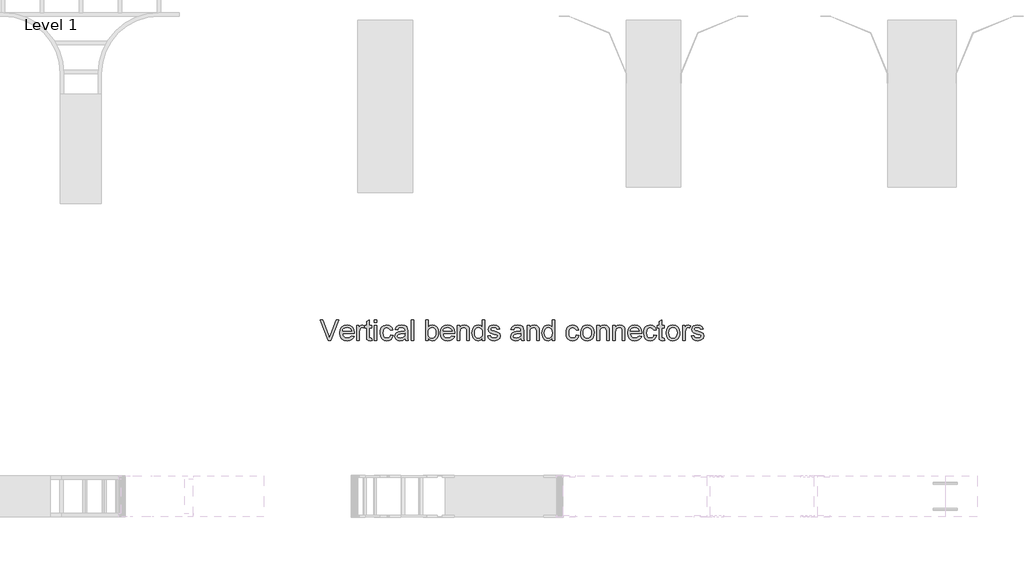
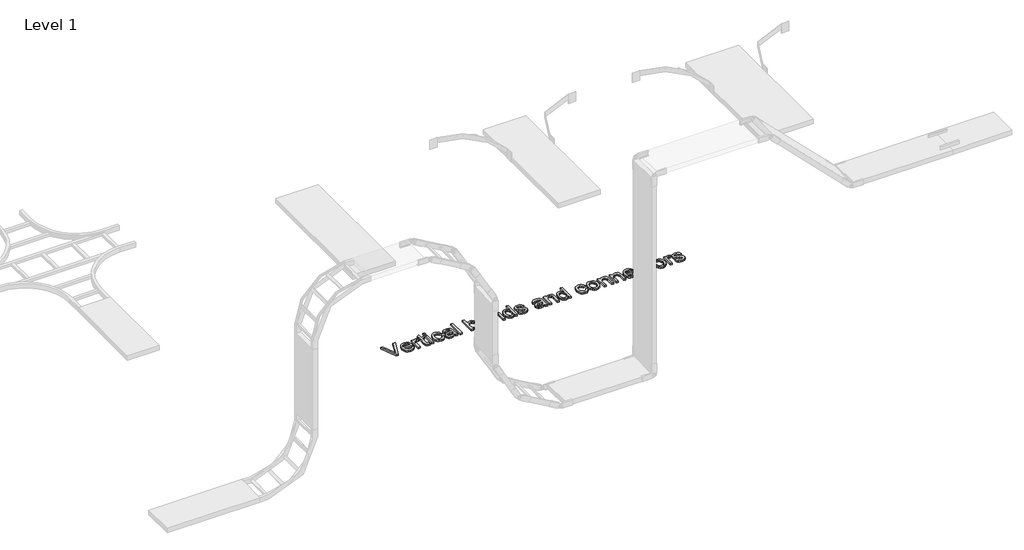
# One storey, part 65 of 106: 1 proxy.
"""IFC4 building model written with IfcOpenShell, lengths in millimetres."""

from ifc_helpers import new_model, si_unit, origin, origin_with_axes, place, context, project, spatial, polyline, outline, extrude, element, save

model = new_model("IFC4")

# Units and contexts
model_context = context("Model", 3, world=origin())
ifc_project = project(units=[si_unit("LENGTHUNIT", "METRE", prefix="MILLI")], contexts=[model_context])

# Site, building, storey
site = spatial("IfcSite", under=ifc_project)
building = spatial("IfcBuilding", under=site)
storey = spatial("IfcBuildingStorey", under=building, Name="Level 1", Elevation=0.0)

# Proxy
placement = place(None, origin())
element("IfcBuildingElementProxy", 1, Name="150mm Arial 2", ObjectType="150mm Arial 2", at=placement, inside=storey, context=model_context, shape_type="SweptSolid", body=[
    extrude(outline(polyline([(41572.9663468, 57347.8476348), (41513.0015816, 57498.5321), (41533.1615149, 57498.5321), (41573.2974406, 57389.9701232), (41581.4276327, 57365.5059705), (41589.4474602, 57389.9701232), (41629.6937505, 57498.5321), (41649.8536838, 57498.5321), (41592.4273044, 57347.8476348), (41572.9663468, 57347.8476348)])), origin_with_axes(), (0.0, 0.0, 1.0), 15.0),
    extrude(outline(polyline([(41742.4863702, 57380.8098615), (41760.9540463, 57378.4554168), (41754.2999808, 57364.5402803), (41743.6819867, 57354.1384169), (41729.3391874, 57347.6544967), (41711.5107062, 57345.49319), (41689.4101953, 57349.2225937), (41672.4048501, 57360.4108049), (41661.5615283, 57378.3312566), (41657.9470877, 57402.2573819), (41661.5983165, 57426.988249), (41672.5520029, 57445.4835163), (41689.3274219, 57457.0166168), (41710.4438484, 57460.8609837), (41730.9026859, 57457.0258139), (41747.250442, 57445.5203045), (41757.9696037, 57427.0618254), (41761.5426575, 57402.3677465), (41761.4322929, 57397.2909749), (41676.7826459, 57397.2909749), (41680.043, 57383.1918975), (41687.6167706, 57372.8268223), (41698.5474644, 57366.4532667), (41711.8785882, 57364.3287482), (41730.3462644, 57368.2650855), (41742.4863702, 57380.8098615)]), holes=[polyline([(41676.7826459, 57416.1265331), (41742.7070994, 57416.1265331), (41740.1595166, 57426.0777411), (41735.1655185, 57433.1962577), (41724.1842409, 57439.8181336), (41710.370272, 57442.0254255), (41697.6737447, 57440.2641905), (41687.1753122, 57434.9804853), (41679.8774531, 57426.7445272), (41676.7826459, 57416.1265331)])]), origin_with_axes(), (0.0, 0.0, 1.0), 15.0),
    extrude(outline(polyline([(41891.0371198, 57363.556196), (41893.3915646, 57347.2958118), (41879.3016842, 57345.49319), (41863.5195466, 57348.620187), (41855.6468719, 57356.8239555), (41853.3660035, 57378.1978994), (41853.3660035, 57439.6709808), (41839.2393349, 57439.6709808), (41839.2393349, 57455.0484482), (41839.2393349, 57458.5065389), (41853.3660035, 57458.5065389), (41853.3660035, 57485.3987128), (41872.2015617, 57496.4719608), (41872.2015617, 57458.5065389), (41891.0371198, 57458.5065389), (41891.0371198, 57439.6709808), (41872.2015617, 57439.6709808), (41872.2015617, 57378.7497224), (41873.1948431, 57369.0376377), (41876.4138105, 57365.597941), (41882.8333514, 57364.3287482), (41891.0371198, 57363.556196)])), origin_with_axes(), (0.0, 0.0, 1.0), 15.0),
    extrude(outline(polyline([(41780.3782157, 57347.8476348), (41780.3782157, 57458.5065389), (41796.8593291, 57458.5065389), (41796.8593291, 57442.1357901), (41808.5579765, 57457.2189519), (41820.3302004, 57460.8609837), (41839.2393349, 57455.0484482), (41832.9485528, 57438.1626646), (41819.704801, 57442.0254255), (41809.0546172, 57438.3098174), (41802.2671944, 57428.0091215), (41799.2137738, 57406.0097782), (41799.2137738, 57347.8476348), (41780.3782157, 57347.8476348)])), origin_with_axes(), (0.0, 0.0, 1.0), 15.0),
    extrude(outline(polyline([(41909.872678, 57479.6965419), (41909.872678, 57498.5321), (41928.7082362, 57498.5321), (41928.7082362, 57479.6965419), (41909.872678, 57479.6965419)])), origin_with_axes(), (0.0, 0.0, 1.0), 15.0),
    extrude(outline(polyline([(41909.872678, 57347.8476348), (41909.872678, 57458.5065389), (41928.7082362, 57458.5065389), (41928.7082362, 57347.8476348), (41909.872678, 57347.8476348)])), origin_with_axes(), (0.0, 0.0, 1.0), 15.0),
    extrude(outline(polyline([(42027.5949165, 57387.8731959), (42046.4304746, 57385.5187511), (42041.1789591, 57368.7663247), (42031.3105246, 57356.1065856), (42017.7540731, 57348.1465389), (42001.4385066, 57345.49319), (41981.4027334, 57349.1950026), (41965.735559, 57360.3004403), (41955.6234026, 57378.3220596), (41952.2526838, 57402.7724167), (41953.6920221, 57419.5340401), (41958.0100371, 57434.0607803), (41965.2757065, 57445.7916175), (41975.5580082, 57454.1655314), (41987.8590624, 57459.1871206), (42001.1809892, 57460.8609837), (42017.096484, 57458.5617212), (42029.8206025, 57451.6639338), (42038.9486745, 57440.5355035), (42044.0760298, 57425.5443122), (42025.2404717, 57423.1898674), (42016.5032743, 57437.2981419), (42001.328142, 57442.0254255), (41989.1558465, 57439.6985719), (41979.4943456, 57432.7180111), (41973.1897679, 57420.7066639), (41971.088242, 57403.2874515), (41973.1437826, 57385.6337142), (41979.3104046, 57373.5809803), (41988.7971615, 57366.6418062), (42000.8131072, 57364.3287482), (42010.5665786, 57365.772685), (42018.5634135, 57370.1044955), (42024.3805475, 57377.4345442), (42027.5949165, 57387.8731959)])), origin_with_axes(), (0.0, 0.0, 1.0), 15.0),
    extrude(outline(polyline([(42133.5449311, 57361.9743034), (42115.27959, 57349.2087982), (42095.1012626, 57345.49319), (42079.3605117, 57347.7280731), (42067.7492362, 57354.4327225), (42060.5893329, 57364.6138567), (42058.2026985, 57377.2781944), (42061.807942, 57392.1774152), (42071.2809034, 57402.9931459), (42084.4694729, 57409.1735634), (42100.7666453, 57412.0062547), (42133.4345665, 57418.4809779), (42133.5449311, 57422.6748326), (42132.248147, 57431.0809362), (42128.3577949, 57436.580772), (42119.6573857, 57440.6642622), (42107.535674, 57442.0254255), (42088.4793867, 57438.4017879), (42079.3927014, 57425.5443122), (42060.5571432, 57427.8987569), (42068.7057294, 57446.2928567), (42085.1132664, 57457.0717991), (42109.9636952, 57460.8609837), (42132.790773, 57457.5132575), (42145.6850369, 57449.107154), (42151.4607842, 57436.3232546), (42152.3804892, 57419.8421412), (42152.3804892, 57396.4080581), (42153.3369824, 57363.6849547), (42157.0893788, 57347.8476348), (42138.2538206, 57347.8476348), (42133.5449311, 57361.9743034)]), holes=[polyline([(42133.5449311, 57399.6454197), (42103.1578783, 57393.8696724), (42086.9526764, 57390.8162518), (42079.6134306, 57385.8498449), (42077.0382566, 57378.6025696), (42082.648457, 57368.4122383), (42099.1111763, 57364.3287482), (42118.1674637, 57368.8353026), (42130.4547223, 57379.7430038), (42133.4345665, 57394.3111308), (42133.5449311, 57399.6454197)])]), origin_with_axes(), (0.0, 0.0, 1.0), 15.0),
    extrude(outline(polyline([(42178.2793817, 57347.8476348), (42178.2793817, 57498.5321), (42197.1149398, 57498.5321), (42197.1149398, 57347.8476348), (42178.2793817, 57347.8476348)])), origin_with_axes(), (0.0, 0.0, 1.0), 15.0),
    extrude(outline(polyline([(42303.0649544, 57347.8476348), (42284.2293963, 57347.8476348), (42284.2293963, 57498.5321), (42303.0649544, 57498.5321), (42303.0649544, 57442.6508249), (42316.253524, 57456.308444), (42332.6426669, 57460.8609837), (42351.5150132, 57456.7590995), (42366.1567166, 57445.2259989), (42375.1514314, 57427.2917516), (42378.4071871, 57404.8325558), (42375.0364683, 57379.6878215), (42364.9243119, 57360.981022), (42350.084872, 57349.365148), (42332.5323023, 57345.49319), (42315.7844744, 57350.4871881), (42303.0649544, 57365.4691823), (42303.0649544, 57347.8476348)]), holes=[polyline([(42303.0649544, 57403.949639), (42304.3525414, 57388.2410779), (42308.2153024, 57377.6092882), (42318.0837369, 57367.6488832), (42330.9136215, 57364.3287482), (42341.7845344, 57366.7751634), (42351.0735548, 57374.1144092), (42357.4471104, 57386.3005003), (42359.5716289, 57403.2874515), (42357.5344824, 57420.5227229), (42351.4230427, 57432.5708583), (42342.4237294, 57439.6617837), (42331.7229619, 57442.0254255), (42320.8520489, 57439.5790103), (42311.5630285, 57432.2397645), (42305.189473, 57420.2744026), (42303.0649544, 57403.949639)])]), origin_with_axes(), (0.0, 0.0, 1.0), 15.0),
    extrude(outline(polyline([(42477.0731382, 57380.8098615), (42495.5408143, 57378.4554168), (42488.8867487, 57364.5402803), (42478.2687546, 57354.1384169), (42463.9259554, 57347.6544967), (42446.0974742, 57345.49319), (42423.9969633, 57349.2225937), (42406.9916181, 57360.4108049), (42396.1482963, 57378.3312566), (42392.5338557, 57402.2573819), (42396.1850845, 57426.988249), (42407.1387709, 57445.4835163), (42423.9141899, 57457.0166168), (42445.0306164, 57460.8609837), (42465.4894538, 57457.0258139), (42481.83721, 57445.5203045), (42492.5563716, 57427.0618254), (42496.1294255, 57402.3677465), (42496.0190609, 57397.2909749), (42411.3694138, 57397.2909749), (42414.629768, 57383.1918975), (42422.2035386, 57372.8268223), (42433.1342324, 57366.4532667), (42446.4653562, 57364.3287482), (42464.9330323, 57368.2650855), (42477.0731382, 57380.8098615)]), holes=[polyline([(42411.3694138, 57416.1265331), (42477.2938674, 57416.1265331), (42474.7462845, 57426.0777411), (42469.7522865, 57433.1962577), (42458.7710089, 57439.8181336), (42444.95704, 57442.0254255), (42432.2605126, 57440.2641905), (42421.7620802, 57434.9804853), (42414.4642211, 57426.7445272), (42411.3694138, 57416.1265331)])]), origin_with_axes(), (0.0, 0.0, 1.0), 15.0),
    extrude(outline(polyline([(42514.9649837, 57347.8476348), (42514.9649837, 57458.5065389), (42533.8005418, 57458.5065389), (42533.8005418, 57443.0554951), (42548.2031219, 57456.4096116), (42567.8664146, 57460.8609837), (42585.653509, 57457.2741342), (42597.7936149, 57447.8563552), (42603.4406035, 57434.0055981), (42604.4338849, 57415.7954393), (42604.4338849, 57347.8476348), (42585.5983267, 57347.8476348), (42585.5983267, 57413.2570535), (42583.427823, 57429.9221079), (42575.7574834, 57438.7328817), (42562.8264312, 57442.0254255), (42551.7945699, 57440.1768185), (42542.3905864, 57434.6309974), (42535.948053, 57423.9164343), (42533.8005418, 57406.5616012), (42533.8005418, 57347.8476348), (42514.9649837, 57347.8476348)])), origin_with_axes(), (0.0, 0.0, 1.0), 15.0),
    extrude(outline(polyline([(42698.6116757, 57347.8476348), (42698.6116757, 57365.6163351), (42686.1496731, 57350.5239763), (42668.9235986, 57345.49319), (42656.7467046, 57347.3142059), (42645.5998802, 57352.7772535), (42636.163707, 57361.5006553), (42629.1187668, 57373.1027337), (42624.731774, 57387.1144392), (42623.269443, 57403.0667223), (42628.6589143, 57433.0491049), (42635.3911548, 57444.9408904), (42644.8089339, 57453.6872848), (42656.1994801, 57459.067559), (42668.8500222, 57460.8609837), (42686.2140524, 57455.7290299), (42698.6116757, 57442.3933075), (42698.6116757, 57498.5321), (42717.4472338, 57498.5321), (42717.4472338, 57347.8476348), (42698.6116757, 57347.8476348)]), holes=[polyline([(42642.1050012, 57403.1402987), (42644.2295197, 57386.1027638), (42650.6030753, 57373.9856505), (42659.8645045, 57366.7429738), (42670.652644, 57364.3287482), (42681.436185, 57366.6326092), (42690.4630895, 57373.5441921), (42696.5745291, 57385.1922558), (42698.6116757, 57401.7055589), (42696.5377409, 57419.7593678), (42690.3159367, 57432.2765527), (42681.059106, 57439.5882073), (42669.8800918, 57442.0254255), (42658.9815877, 57439.6847764), (42650.0512523, 57432.6628288), (42644.091564, 57420.6008979), (42642.1050012, 57403.1402987)])]), origin_with_axes(), (0.0, 0.0, 1.0), 15.0),
    extrude(outline(polyline([(42738.6372367, 57380.8098615), (42757.4727949, 57383.1643063), (42760.443442, 57375.1076906), (42766.1915982, 57369.1847905), (42786.1675905, 57364.3287482), (42805.3710307, 57368.7801203), (42811.6250246, 57379.227969), (42810.052329, 57384.028829), (42805.3342425, 57387.6892549), (42785.9468613, 57393.060332), (42757.5831595, 57402.275776), (42745.2039303, 57413.0363243), (42740.9916815, 57428.2298507), (42744.3761959, 57442.2645488), (42753.6100339, 57452.988309), (42765.5845929, 57458.5617212), (42781.7897948, 57460.8609837), (42804.7088431, 57457.1637696), (42819.2769701, 57447.1573794), (42825.7516932, 57430.2532017), (42806.916135, 57427.8987569), (42799.8344066, 57438.2914233), (42783.2613227, 57442.0254255), (42765.235105, 57438.4569702), (42759.8272397, 57430.1428371), (42762.0713198, 57424.6613954), (42769.0978659, 57420.5043288), (42785.3214619, 57416.4944151), (42812.9677939, 57407.628459), (42825.8068755, 57397.5852805), (42830.4605827, 57381.2145317), (42824.9975351, 57363.188314), (42809.2337916, 57350.1101091), (42785.9100731, 57345.49319), (42766.9181651, 57347.7188761), (42753.0582109, 57354.3959343), (42743.8059788, 57365.4507882), (42738.6372367, 57380.8098615)])), origin_with_axes(), (0.0, 0.0, 1.0), 15.0),
    extrude(outline(polyline([(42981.145048, 57361.9743034), (42962.8797069, 57349.2087982), (42942.7013795, 57345.49319), (42926.9606286, 57347.7280731), (42915.3493531, 57354.4327225), (42908.1894498, 57364.6138567), (42905.8028153, 57377.2781944), (42909.4080589, 57392.1774152), (42918.8810203, 57402.9931459), (42932.0695898, 57409.1735634), (42948.3667622, 57412.0062547), (42981.0346834, 57418.4809779), (42981.145048, 57422.6748326), (42979.8482639, 57431.0809362), (42975.9579118, 57436.580772), (42967.2575026, 57440.6642622), (42955.1357909, 57442.0254255), (42936.0795035, 57438.4017879), (42926.9928183, 57425.5443122), (42908.1572601, 57427.8987569), (42916.3058463, 57446.2928567), (42932.7133833, 57457.0717991), (42957.5638121, 57460.8609837), (42980.3908899, 57457.5132575), (42993.2851538, 57449.107154), (42999.0609011, 57436.3232546), (42999.9806061, 57419.8421412), (42999.9806061, 57396.4080581), (43000.9370993, 57363.6849547), (43004.6894956, 57347.8476348), (42985.8539375, 57347.8476348), (42981.145048, 57361.9743034)]), holes=[polyline([(42981.145048, 57399.6454197), (42950.7579952, 57393.8696724), (42934.5527933, 57390.8162518), (42927.2135475, 57385.8498449), (42924.6383735, 57378.6025696), (42930.2485739, 57368.4122383), (42946.7112932, 57364.3287482), (42965.7675806, 57368.8353026), (42978.0548392, 57379.7430038), (42981.0346834, 57394.3111308), (42981.145048, 57399.6454197)])]), origin_with_axes(), (0.0, 0.0, 1.0), 15.0),
    extrude(outline(polyline([(43025.8794986, 57347.8476348), (43025.8794986, 57458.5065389), (43044.7150567, 57458.5065389), (43044.7150567, 57443.0554951), (43059.1176368, 57456.4096116), (43078.7809295, 57460.8609837), (43096.5680239, 57457.2741342), (43108.7081298, 57447.8563552), (43114.3551184, 57434.0055981), (43115.3483998, 57415.7954393), (43115.3483998, 57347.8476348), (43096.5128416, 57347.8476348), (43096.5128416, 57413.2570535), (43094.3423379, 57429.9221079), (43086.6719983, 57438.7328817), (43073.7409461, 57442.0254255), (43062.7090848, 57440.1768185), (43053.3051013, 57434.6309974), (43046.8625679, 57423.9164343), (43044.7150567, 57406.5616012), (43044.7150567, 57347.8476348), (43025.8794986, 57347.8476348)])), origin_with_axes(), (0.0, 0.0, 1.0), 15.0),
    extrude(outline(polyline([(43209.5261906, 57347.8476348), (43209.5261906, 57365.6163351), (43197.064188, 57350.5239763), (43179.8381135, 57345.49319), (43167.6612195, 57347.3142059), (43156.5143951, 57352.7772535), (43147.0782219, 57361.5006553), (43140.0332817, 57373.1027337), (43135.6462889, 57387.1144392), (43134.1839579, 57403.0667223), (43139.5734292, 57433.0491049), (43146.3056697, 57444.9408904), (43155.7234488, 57453.6872848), (43167.113995, 57459.067559), (43179.7645371, 57460.8609837), (43197.1285673, 57455.7290299), (43209.5261906, 57442.3933075), (43209.5261906, 57498.5321), (43228.3617487, 57498.5321), (43228.3617487, 57347.8476348), (43209.5261906, 57347.8476348)]), holes=[polyline([(43153.0195161, 57403.1402987), (43155.1440346, 57386.1027638), (43161.5175902, 57373.9856505), (43170.7790194, 57366.7429738), (43181.5671589, 57364.3287482), (43192.3506999, 57366.6326092), (43201.3776044, 57373.5441921), (43207.489044, 57385.1922558), (43209.5261906, 57401.7055589), (43207.4522558, 57419.7593678), (43201.2304516, 57432.2765527), (43191.9736209, 57439.5882073), (43180.7946067, 57442.0254255), (43169.8961026, 57439.6847764), (43160.9657672, 57432.6628288), (43155.0060789, 57420.6008979), (43153.0195161, 57403.1402987)])]), origin_with_axes(), (0.0, 0.0, 1.0), 15.0),
    extrude(outline(polyline([(43386.1095482, 57387.8731959), (43404.9451064, 57385.5187511), (43399.6935909, 57368.7663247), (43389.8251564, 57356.1065856), (43376.2687049, 57348.1465389), (43359.9531384, 57345.49319), (43339.9173652, 57349.1950026), (43324.2501908, 57360.3004403), (43314.1380344, 57378.3220596), (43310.7673156, 57402.7724167), (43312.2066539, 57419.5340401), (43316.5246689, 57434.0607803), (43323.7903383, 57445.7916175), (43334.07264, 57454.1655314), (43346.3736942, 57459.1871206), (43359.695621, 57460.8609837), (43375.6111158, 57458.5617212), (43388.3352343, 57451.6639338), (43397.4633063, 57440.5355035), (43402.5906616, 57425.5443122), (43383.7551035, 57423.1898674), (43375.0179061, 57437.2981419), (43359.8427738, 57442.0254255), (43347.6704783, 57439.6985719), (43338.0089774, 57432.7180111), (43331.7043997, 57420.7066639), (43329.6028738, 57403.2874515), (43331.6584144, 57385.6337142), (43337.8250364, 57373.5809803), (43347.3117933, 57366.6418062), (43359.327739, 57364.3287482), (43369.0812104, 57365.772685), (43377.0780453, 57370.1044955), (43382.8951793, 57377.4345442), (43386.1095482, 57387.8731959)])), origin_with_axes(), (0.0, 0.0, 1.0), 15.0),
    extrude(outline(polyline([(43416.7173302, 57403.1770869), (43420.7916233, 57429.8577286), (43433.0145026, 57448.6105133), (43448.1160585, 57457.7983661), (43466.1974586, 57460.8609837), (43485.9849114, 57457.13158), (43501.7900416, 57445.9433688), (43512.1505183, 57428.179267), (43515.6040105, 57404.7221912), (43514.0773003, 57385.693495), (43509.4971694, 57371.2081415), (43501.9969752, 57360.3602211), (43491.710075, 57352.2438246), (43479.4917942, 57347.1808487), (43466.1974586, 57345.49319), (43446.1708825, 57349.2087982), (43430.3841464, 57360.3556226), (43420.1340343, 57378.492205), (43416.7173302, 57403.1770869)]), holes=[polyline([(43435.5528884, 57403.2138751), (43437.7325892, 57386.1671431), (43444.2716917, 57374.0224387), (43454.1125351, 57366.7521708), (43466.1974586, 57364.3287482), (43478.2271998, 57366.7659664), (43488.0496491, 57374.077621), (43494.5887516, 57386.3832738), (43496.7684524, 57403.8024862), (43494.574956, 57420.3525775), (43487.9944668, 57432.331735), (43478.158222, 57439.6020029), (43466.1974586, 57442.0254255), (43454.1125351, 57439.6112), (43444.2716917, 57432.3685232), (43437.7325892, 57420.25141), (43435.5528884, 57403.2138751)])]), origin_with_axes(), (0.0, 0.0, 1.0), 15.0),
    extrude(outline(polyline([(43536.7940135, 57347.8476348), (43536.7940135, 57458.5065389), (43555.6295716, 57458.5065389), (43555.6295716, 57443.0554951), (43570.0321517, 57456.4096116), (43589.6954444, 57460.8609837), (43607.4825388, 57457.2741342), (43619.6226447, 57447.8563552), (43625.2696333, 57434.0055981), (43626.2629147, 57415.7954393), (43626.2629147, 57347.8476348), (43607.4273565, 57347.8476348), (43607.4273565, 57413.2570535), (43605.2568528, 57429.9221079), (43597.5865132, 57438.7328817), (43584.655461, 57442.0254255), (43573.6235997, 57440.1768185), (43564.2196162, 57434.6309974), (43557.7770828, 57423.9164343), (43555.6295716, 57406.5616012), (43555.6295716, 57347.8476348), (43536.7940135, 57347.8476348)])), origin_with_axes(), (0.0, 0.0, 1.0), 15.0),
    extrude(outline(polyline([(43652.1618072, 57347.8476348), (43652.1618072, 57458.5065389), (43670.9973653, 57458.5065389), (43670.9973653, 57443.0554951), (43685.3999454, 57456.4096116), (43705.0632381, 57460.8609837), (43722.8503325, 57457.2741342), (43734.9904384, 57447.8563552), (43740.637427, 57434.0055981), (43741.6307084, 57415.7954393), (43741.6307084, 57347.8476348), (43722.7951502, 57347.8476348), (43722.7951502, 57413.2570535), (43720.6246465, 57429.9221079), (43712.9543069, 57438.7328817), (43700.0232547, 57442.0254255), (43688.9913934, 57440.1768185), (43679.5874099, 57434.6309974), (43673.1448765, 57423.9164343), (43670.9973653, 57406.5616012), (43670.9973653, 57347.8476348), (43652.1618072, 57347.8476348)])), origin_with_axes(), (0.0, 0.0, 1.0), 15.0),
    extrude(outline(polyline([(43845.005549, 57380.8098615), (43863.4732252, 57378.4554168), (43856.8191596, 57364.5402803), (43846.2011655, 57354.1384169), (43831.8583662, 57347.6544967), (43814.029885, 57345.49319), (43791.9293742, 57349.2225937), (43774.9240289, 57360.4108049), (43764.0807071, 57378.3312566), (43760.4662665, 57402.2573819), (43764.1174953, 57426.988249), (43775.0711817, 57445.4835163), (43791.8466007, 57457.0166168), (43812.9630272, 57460.8609837), (43833.4218647, 57457.0258139), (43849.7696209, 57445.5203045), (43860.4887825, 57427.0618254), (43864.0618364, 57402.3677465), (43863.9514718, 57397.2909749), (43779.3018247, 57397.2909749), (43782.5621789, 57383.1918975), (43790.1359494, 57372.8268223), (43801.0666432, 57366.4532667), (43814.397767, 57364.3287482), (43832.8654432, 57368.2650855), (43845.005549, 57380.8098615)]), holes=[polyline([(43779.3018247, 57416.1265331), (43845.2262782, 57416.1265331), (43842.6786954, 57426.0777411), (43837.6846973, 57433.1962577), (43826.7034198, 57439.8181336), (43812.8894508, 57442.0254255), (43800.1929235, 57440.2641905), (43789.6944911, 57434.9804853), (43782.396632, 57426.7445272), (43779.3018247, 57416.1265331)])]), origin_with_axes(), (0.0, 0.0, 1.0), 15.0),
    extrude(outline(polyline([(43953.5307376, 57387.8731959), (43972.3662958, 57385.5187511), (43967.1147803, 57368.7663247), (43957.2463458, 57356.1065856), (43943.6898942, 57348.1465389), (43927.3743277, 57345.49319), (43907.3385546, 57349.1950026), (43891.6713801, 57360.3004403), (43881.5592238, 57378.3220596), (43878.188505, 57402.7724167), (43879.6278433, 57419.5340401), (43883.9458582, 57434.0607803), (43891.2115276, 57445.7916175), (43901.4938294, 57454.1655314), (43913.7948836, 57459.1871206), (43927.1168103, 57460.8609837), (43943.0323052, 57458.5617212), (43955.7564237, 57451.6639338), (43964.8844957, 57440.5355035), (43970.011851, 57425.5443122), (43951.1762928, 57423.1898674), (43942.4390954, 57437.2981419), (43927.2639631, 57442.0254255), (43915.0916676, 57439.6985719), (43905.4301667, 57432.7180111), (43899.125589, 57420.7066639), (43897.0240631, 57403.2874515), (43899.0796038, 57385.6337142), (43905.2462257, 57373.5809803), (43914.7329827, 57366.6418062), (43926.7489284, 57364.3287482), (43936.5023998, 57365.772685), (43944.4992346, 57370.1044955), (43950.3163687, 57377.4345442), (43953.5307376, 57387.8731959)])), origin_with_axes(), (0.0, 0.0, 1.0), 15.0),
    extrude(outline(polyline([(44028.8729702, 57363.556196), (44031.227415, 57347.2958118), (44017.1375346, 57345.49319), (44001.355397, 57348.620187), (43993.4827223, 57356.8239555), (43991.2018539, 57378.1978994), (43991.2018539, 57439.6709808), (43977.0751853, 57439.6709808), (43977.0751853, 57458.5065389), (43991.2018539, 57458.5065389), (43991.2018539, 57485.3987128), (44010.0374121, 57496.4719608), (44010.0374121, 57458.5065389), (44028.8729702, 57458.5065389), (44028.8729702, 57439.6709808), (44010.0374121, 57439.6709808), (44010.0374121, 57378.7497224), (44011.0306934, 57369.0376377), (44014.2496609, 57365.597941), (44020.6692017, 57364.3287482), (44028.8729702, 57363.556196)])), origin_with_axes(), (0.0, 0.0, 1.0), 15.0),
    extrude(outline(polyline([(44042.9996388, 57403.1770869), (44047.0739319, 57429.8577286), (44059.2968112, 57448.6105133), (44074.3983671, 57457.7983661), (44092.4797672, 57460.8609837), (44112.26722, 57457.13158), (44128.0723502, 57445.9433688), (44138.4328269, 57428.179267), (44141.8863191, 57404.7221912), (44140.3596089, 57385.693495), (44135.779478, 57371.2081415), (44128.2792838, 57360.3602211), (44117.9923835, 57352.2438246), (44105.7741028, 57347.1808487), (44092.4797672, 57345.49319), (44072.4531911, 57349.2087982), (44056.666455, 57360.3556226), (44046.4163429, 57378.492205), (44042.9996388, 57403.1770869)]), holes=[polyline([(44061.835197, 57403.2138751), (44064.0148978, 57386.1671431), (44070.5540003, 57374.0224387), (44080.3948436, 57366.7521708), (44092.4797672, 57364.3287482), (44104.5095084, 57366.7659664), (44114.3319577, 57374.077621), (44120.8710602, 57386.3832738), (44123.050761, 57403.8024862), (44120.8572646, 57420.3525775), (44114.2767754, 57432.331735), (44104.4405305, 57439.6020029), (44092.4797672, 57442.0254255), (44080.3948436, 57439.6112), (44070.5540003, 57432.3685232), (44064.0148978, 57420.25141), (44061.835197, 57403.2138751)])]), origin_with_axes(), (0.0, 0.0, 1.0), 15.0),
    extrude(outline(polyline([(44163.0763221, 57347.8476348), (44163.0763221, 57458.5065389), (44179.5574354, 57458.5065389), (44179.5574354, 57442.1357901), (44191.2560829, 57457.2189519), (44203.0283067, 57460.8609837), (44221.9374413, 57455.0484482), (44215.6466592, 57438.1626646), (44202.4029073, 57442.0254255), (44191.7527236, 57438.3098174), (44184.9653008, 57428.0091215), (44181.9118802, 57406.0097782), (44181.9118802, 57347.8476348), (44163.0763221, 57347.8476348)])), origin_with_axes(), (0.0, 0.0, 1.0), 15.0),
    extrude(outline(polyline([(44226.6463308, 57380.8098615), (44245.481889, 57383.1643063), (44248.4525361, 57375.1076906), (44254.2006923, 57369.1847905), (44274.1766846, 57364.3287482), (44293.3801247, 57368.7801203), (44299.6341187, 57379.227969), (44298.0614231, 57384.028829), (44293.3433365, 57387.6892549), (44273.9559554, 57393.060332), (44245.5922536, 57402.275776), (44233.2130244, 57413.0363243), (44229.0007756, 57428.2298507), (44232.3852899, 57442.2645488), (44241.619128, 57452.988309), (44253.593687, 57458.5617212), (44269.7988889, 57460.8609837), (44292.7179372, 57457.1637696), (44307.2860642, 57447.1573794), (44313.7607873, 57430.2532017), (44294.9252291, 57427.8987569), (44287.8435007, 57438.2914233), (44271.2704168, 57442.0254255), (44253.2441991, 57438.4569702), (44247.8363337, 57430.1428371), (44250.0804139, 57424.6613954), (44257.10696, 57420.5043288), (44273.330556, 57416.4944151), (44300.9768879, 57407.628459), (44313.8159696, 57397.5852805), (44318.4696768, 57381.2145317), (44313.0066292, 57363.188314), (44297.2428857, 57350.1101091), (44273.9191672, 57345.49319), (44254.9272592, 57347.7188761), (44241.067305, 57354.3959343), (44231.8150729, 57365.4507882), (44226.6463308, 57380.8098615)])), origin_with_axes(), (0.0, 0.0, 1.0), 15.0),
])

save(model, "model.ifc")
